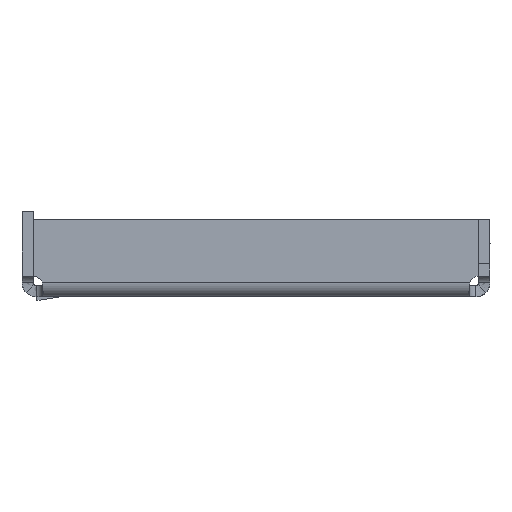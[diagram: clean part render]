
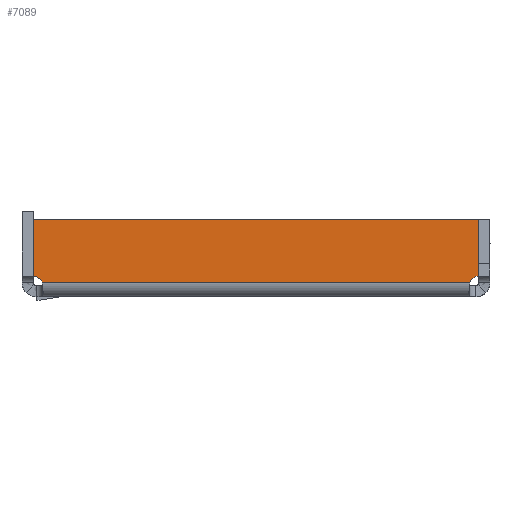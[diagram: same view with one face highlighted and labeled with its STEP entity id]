
A CAD part, left-side view. The second image highlights one B-rep face of the part: STEP entity #7089.
In plain terms, the highlighted planar face has unit normal (-1, 0, 0).
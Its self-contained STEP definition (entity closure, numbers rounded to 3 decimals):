
#7069=AXIS2_PLACEMENT_3D('Plane Axis2P3D',#7066,#7067,#7068) ;
#7073=AXIS2_PLACEMENT_3D('Circle Axis2P3D',#7071,#7072,$) ;
#7078=AXIS2_PLACEMENT_3D('Circle Axis2P3D',#7076,#7077,$) ;
#5029=CARTESIAN_POINT('Vertex',(-84.25,-38.834,2.6)) ;
#5032=CARTESIAN_POINT('Line Origine',(-84.25,0.,2.6)) ;
#5036=CARTESIAN_POINT('Vertex',(-84.25,38.834,2.6)) ;
#5830=CARTESIAN_POINT('Line Origine',(-84.25,-40.5,8.908)) ;
#5834=CARTESIAN_POINT('Vertex',(-84.25,-40.5,14.)) ;
#5836=CARTESIAN_POINT('Vertex',(-84.25,-40.5,3.815)) ;
#6422=CARTESIAN_POINT('Line Origine',(-84.25,0.,14.)) ;
#6426=CARTESIAN_POINT('Vertex',(-84.25,40.5,14.)) ;
#6464=CARTESIAN_POINT('Vertex',(-84.25,40.5,3.815)) ;
#6467=CARTESIAN_POINT('Line Origine',(-84.25,40.5,8.908)) ;
#7066=CARTESIAN_POINT('Axis2P3D Location',(-84.25,0.,2.)) ;
#7071=CARTESIAN_POINT('Axis2P3D Location',(-84.25,-40.677,1.823)) ;
#7076=CARTESIAN_POINT('Axis2P3D Location',(-84.25,40.677,1.823)) ;
#5033=DIRECTION('Vector Direction',(0.,-1.,0.)) ;
#5831=DIRECTION('Vector Direction',(0.,0.,-1.)) ;
#6423=DIRECTION('Vector Direction',(0.,1.,0.)) ;
#6468=DIRECTION('Vector Direction',(0.,0.,-1.)) ;
#7067=DIRECTION('Axis2P3D Direction',(-1.,0.,0.)) ;
#7068=DIRECTION('Axis2P3D XDirection',(0.,-1.,0.)) ;
#7072=DIRECTION('Axis2P3D Direction',(-1.,0.,0.)) ;
#7077=DIRECTION('Axis2P3D Direction',(-1.,0.,0.)) ;
#5034=VECTOR('Line Direction',#5033,1.) ;
#5832=VECTOR('Line Direction',#5831,1.) ;
#6424=VECTOR('Line Direction',#6423,1.) ;
#6469=VECTOR('Line Direction',#6468,1.) ;
#7082=ORIENTED_EDGE('',*,*,#5038,.T.) ;
#7083=ORIENTED_EDGE('',*,*,#7075,.T.) ;
#7084=ORIENTED_EDGE('',*,*,#5838,.F.) ;
#7085=ORIENTED_EDGE('',*,*,#6428,.T.) ;
#7086=ORIENTED_EDGE('',*,*,#6471,.T.) ;
#7087=ORIENTED_EDGE('',*,*,#7080,.T.) ;
#7089=ADVANCED_FACE('Body.1',(#7088),#7070,.T.) ;
#7074=CIRCLE('generated circle',#7073,2.) ;
#7079=CIRCLE('generated circle',#7078,2.) ;
#5038=EDGE_CURVE('',#5037,#5030,#5035,.T.) ;
#5838=EDGE_CURVE('',#5835,#5837,#5833,.T.) ;
#6428=EDGE_CURVE('',#5835,#6427,#6425,.T.) ;
#6471=EDGE_CURVE('',#6427,#6465,#6470,.T.) ;
#7075=EDGE_CURVE('',#5030,#5837,#7074,.F.) ;
#7080=EDGE_CURVE('',#6465,#5037,#7079,.F.) ;
#7081=EDGE_LOOP('',(#7082,#7083,#7084,#7085,#7086,#7087)) ;
#7088=FACE_OUTER_BOUND('',#7081,.T.) ;
#5035=LINE('Line',#5032,#5034) ;
#5833=LINE('Line',#5830,#5832) ;
#6425=LINE('Line',#6422,#6424) ;
#6470=LINE('Line',#6467,#6469) ;
#7070=PLANE('Plane',#7069) ;
#5030=VERTEX_POINT('',#5029) ;
#5037=VERTEX_POINT('',#5036) ;
#5835=VERTEX_POINT('',#5834) ;
#5837=VERTEX_POINT('',#5836) ;
#6427=VERTEX_POINT('',#6426) ;
#6465=VERTEX_POINT('',#6464) ;
